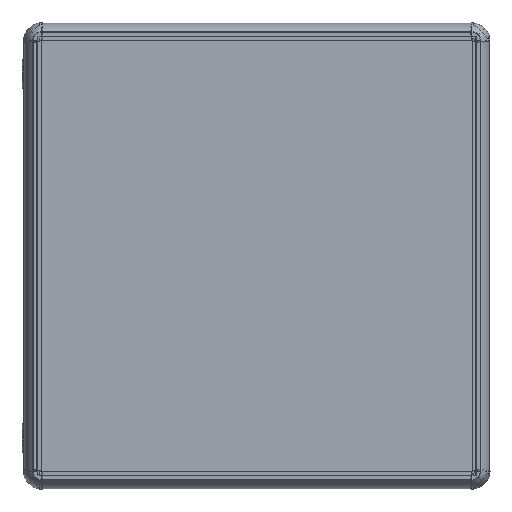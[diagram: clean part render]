
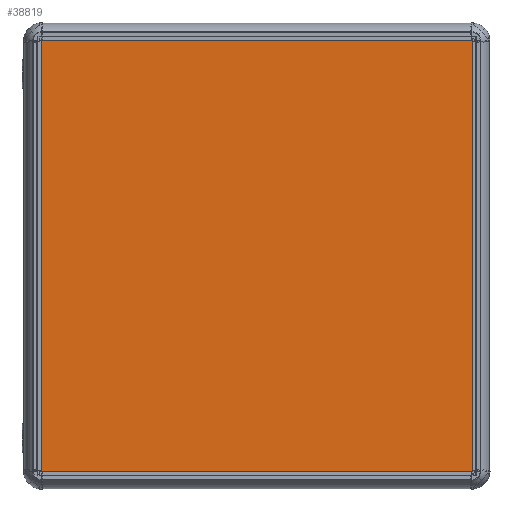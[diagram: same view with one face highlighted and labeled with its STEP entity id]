
A CAD part, top view. The second image highlights one B-rep face of the part: STEP entity #38819.
In plain terms, the highlighted planar face has unit normal (0, 0, 1).
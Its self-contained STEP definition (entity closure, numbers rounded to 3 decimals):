
#3047 = LINE ( 'NONE', #51311, #29803 ) ;
#5372 = CARTESIAN_POINT ( 'NONE',  ( 300., -300., 2. ) ) ;
#5485 = CARTESIAN_POINT ( 'NONE',  ( 300., 300., 2. ) ) ;
#10396 = ORIENTED_EDGE ( 'NONE', *, *, #80287, .T. ) ;
#18661 = EDGE_CURVE ( 'NONE', #24512, #60370, #110539, .T. ) ;
#19896 = ORIENTED_EDGE ( 'NONE', *, *, #154161, .T. ) ;
#24284 = CARTESIAN_POINT ( 'NONE',  ( 0., 0., 2. ) ) ;
#24512 = VERTEX_POINT ( 'NONE', #5372 ) ;
#29803 = VECTOR ( 'NONE', #86855, 1000. ) ;
#38531 = FACE_OUTER_BOUND ( 'NONE', #75909, .T. ) ;
#38693 = DIRECTION ( 'NONE',  ( 0., 1., 0. ) ) ;
#38819 = ADVANCED_FACE ( 'NONE', ( #38531 ), #49686, .T. ) ;
#40458 = CARTESIAN_POINT ( 'NONE',  ( -300., 300., 2. ) ) ;
#40557 = VERTEX_POINT ( 'NONE', #88979 ) ;
#49686 = PLANE ( 'NONE',  #61758 ) ;
#51311 = CARTESIAN_POINT ( 'NONE',  ( -300., 300., 2. ) ) ;
#52908 = ORIENTED_EDGE ( 'NONE', *, *, #67554, .T. ) ;
#53168 = DIRECTION ( 'NONE',  ( -1., 0., 0. ) ) ;
#57807 = CARTESIAN_POINT ( 'NONE',  ( 300., 300., 2. ) ) ;
#60370 = VERTEX_POINT ( 'NONE', #57807 ) ;
#61758 = AXIS2_PLACEMENT_3D ( 'NONE', #24284, #122967, #72601 ) ;
#67008 = VECTOR ( 'NONE', #38693, 1000. ) ;
#67554 = EDGE_CURVE ( 'NONE', #40557, #24512, #108883, .T. ) ;
#68229 = VERTEX_POINT ( 'NONE', #130621 ) ;
#72601 = DIRECTION ( 'NONE',  ( 1., 0., 0. ) ) ;
#75909 = EDGE_LOOP ( 'NONE', ( #80934, #19896, #10396, #52908 ) ) ;
#80287 = EDGE_CURVE ( 'NONE', #68229, #40557, #3047, .T. ) ;
#80934 = ORIENTED_EDGE ( 'NONE', *, *, #18661, .T. ) ;
#86855 = DIRECTION ( 'NONE',  ( 0., -1., 0. ) ) ;
#88979 = CARTESIAN_POINT ( 'NONE',  ( -300., -300., 2. ) ) ;
#96904 = VECTOR ( 'NONE', #53168, 1000. ) ;
#97077 = DIRECTION ( 'NONE',  ( 1., 0., 0. ) ) ;
#108883 = LINE ( 'NONE', #131801, #117199 ) ;
#110539 = LINE ( 'NONE', #5485, #67008 ) ;
#117199 = VECTOR ( 'NONE', #97077, 1000. ) ;
#122967 = DIRECTION ( 'NONE',  ( 0., 0., 1. ) ) ;
#130621 = CARTESIAN_POINT ( 'NONE',  ( -300., 300., 2. ) ) ;
#131801 = CARTESIAN_POINT ( 'NONE',  ( -300., -300., 2. ) ) ;
#148623 = LINE ( 'NONE', #40458, #96904 ) ;
#154161 = EDGE_CURVE ( 'NONE', #60370, #68229, #148623, .T. ) ;
